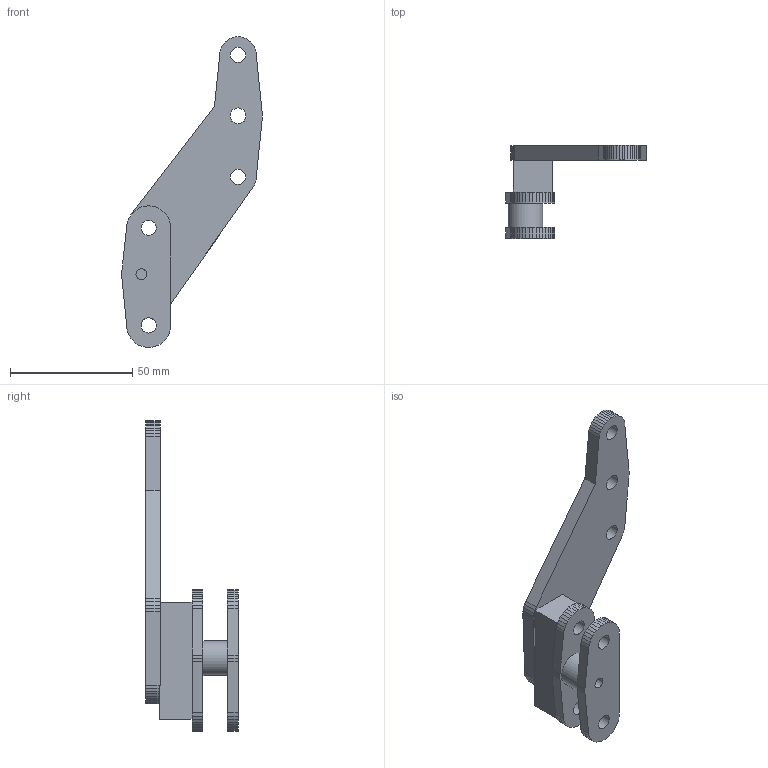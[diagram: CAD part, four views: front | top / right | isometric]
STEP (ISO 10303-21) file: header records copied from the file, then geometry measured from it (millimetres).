
FILE_DESCRIPTION(('Open CASCADE Model'),'2;1');
FILE_NAME('Open CASCADE Shape Model','2026-10-15T19:48:37',('Author'),( 'Open CASCADE'),'Open CASCADE STEP processor 7.9','Open CASCADE 7.9' ,'Unknown');
FILE_SCHEMA(('AUTOMOTIVE_DESIGN { 1 0 10303 214 1 1 1 1 }'));
Length unit declared in the file: millimetre
Products named in the file (1): Open CASCADE STEP translator 7.9 5
Bounding box: 57.7 x 38 x 127.35 mm (x, y, z)
Volume: 37219.5 mm3; surface area: 14928 mm2
Topology: 1 solids, 1 shells, 154 faces, 446 edges, 297 vertices
Faces by surface type: plane 145, cylinder 9
Full cylindrical faces by diameter (mm): 4.4 x1, 6.2 x6, 6.5 x1, 14.196 x1
Entity records: 10784 total; most frequent: CARTESIAN_POINT 1842, DIRECTION 1626, LINE 1258, VECTOR 1258, ORIENTED_EDGE 892, PCURVE 892, DEFINITIONAL_REPRESENTATION 892, EDGE_CURVE 446
